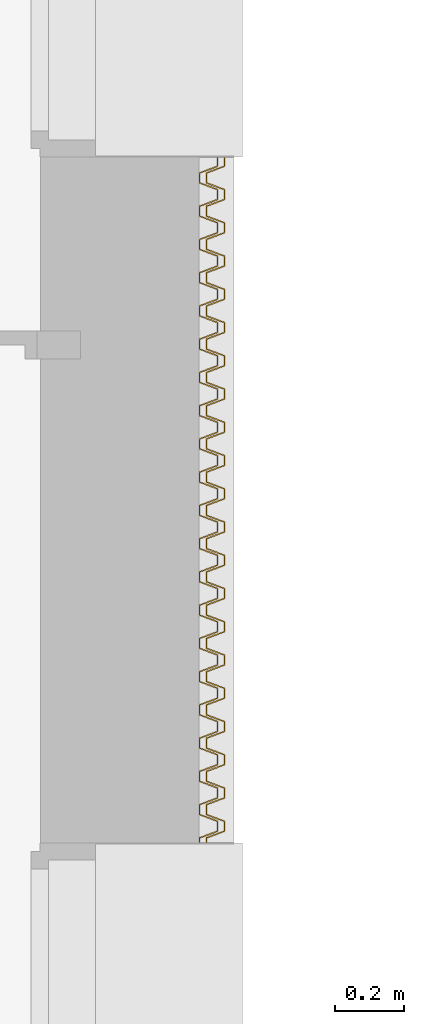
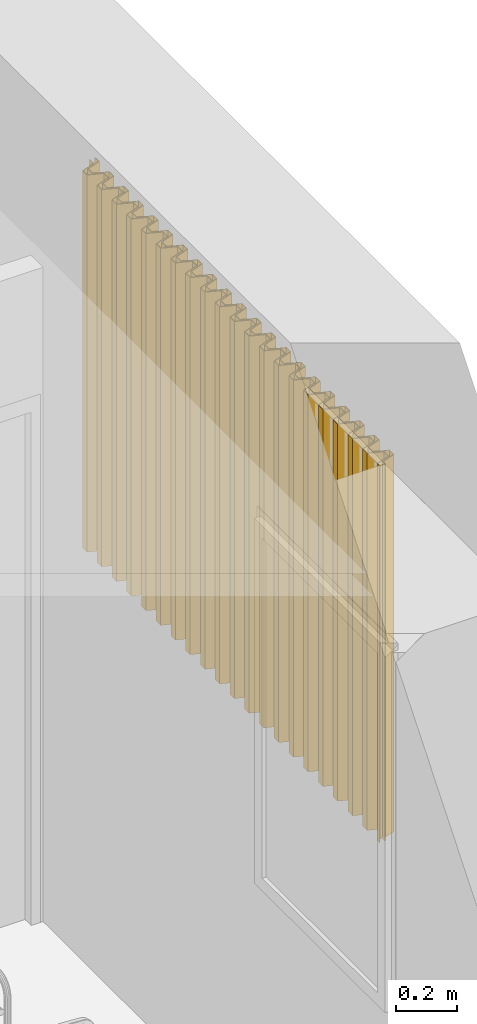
# One storey, part 83 of 91: 2 coverings.
"""IFC2X3 building model written with IfcOpenShell, lengths in metres."""

import ifcopenshell
import ifcopenshell.guid

model = None  # the IFC model being written
_history = None  # IfcOwnerHistory: only IFC2X3 demands one
_inside = {}  # id of a spatial element -> (the spatial element, [elements in it])
_under = {}  # id of a project, library or spatial element -> (it, [spatial elements below it])
_declared = {}  # id of a project -> (the project, [libraries it declares])
_typed = {}  # id of a type object -> (the type object, [elements of that type])
_made_of = {}  # id of a material, layer set ... -> (it, [elements and type objects made of it])


def new_model(schema):
    """Start an empty IFC model of exactly this schema.

    Asked for "IFC4X3", IfcOpenShell would pick the latest addendum, in which some entities
    have other attributes; the version numbers below select the first issue.
    IFC2X3 requires an IfcOwnerHistory on every rooted entity: one is made here for all.
    """
    global model, _history
    if schema == "IFC4X3":
        model = ifcopenshell.file(schema_version=(4, 3, 0, 0))
    else:
        model = ifcopenshell.file(schema=schema)
    _inside.clear()
    _under.clear()
    _declared.clear()
    _typed.clear()
    _made_of.clear()
    _history = None
    if model.schema == "IFC2X3":
        org = make("IfcOrganization", Name="unknown")
        user = make(
            "IfcPersonAndOrganization",
            ThePerson=make("IfcPerson", FamilyName="unknown"),
            TheOrganization=org,
        )
        app = make(
            "IfcApplication",
            ApplicationDeveloper=org,
            Version="unknown",
            ApplicationFullName="unknown",
            ApplicationIdentifier="unknown",
        )
        _history = make(
            "IfcOwnerHistory",
            OwningUser=user,
            OwningApplication=app,
            ChangeAction="ADDED",
            CreationDate=0,
        )
    return model


def make(cls, **values):
    """One entity of the class cls with the attributes given. An attribute that is None is left unset."""
    return model.create_entity(
        cls, **{name: value for name, value in values.items() if value is not None}
    )


def entity(cls, *values):
    """Any entity or typed value of the class cls, its attributes in the order of the schema. None: left unset."""
    e = model.create_entity(cls)
    for i, value in enumerate(values):
        if value is not None:
            e[i] = value
    return e


def rooted(cls, **values):
    """An entity with a GlobalId (a new one), such as an element, a storey or a relation."""
    return make(cls, GlobalId=ifcopenshell.guid.new(), OwnerHistory=_history, **values)


def si_unit(unit_type, name, prefix=None):
    """IfcSIUnit, for example si_unit("LENGTHUNIT", "METRE", prefix="MILLI")."""
    return make("IfcSIUnit", UnitType=unit_type, Prefix=prefix, Name=name)


def converted_unit(unit_type, name, factor, base, dimensions=None, offset=None):
    """IfcConversionBasedUnit, such as the inch: factor (a typed value) times the base unit."""
    return make(
        "IfcConversionBasedUnit"
        if offset is None
        else "IfcConversionBasedUnitWithOffset",
        ConversionOffset=offset,
        Dimensions=None
        if dimensions is None
        else entity("IfcDimensionalExponents", *dimensions),
        UnitType=unit_type,
        Name=name,
        ConversionFactor=make(
            "IfcMeasureWithUnit", ValueComponent=factor, UnitComponent=base
        ),
    )


def derived_unit(unit_type, elements):
    """IfcDerivedUnit: a product of units, each with its exponent."""
    return make(
        "IfcDerivedUnit",
        Elements=[
            make("IfcDerivedUnitElement", Unit=unit, Exponent=power)
            for unit, power in elements
        ],
        UnitType=unit_type,
    )


def money_unit(currency):
    """IfcMonetaryUnit."""
    return make("IfcMonetaryUnit", Currency=currency)


def assignment(units):
    """IfcUnitAssignment: the units of a project."""
    return None if units is None else make("IfcUnitAssignment", Units=units)


def point(xyz):
    """IfcCartesianPoint."""
    return None if xyz is None else make("IfcCartesianPoint", Coordinates=xyz)


def direction(xyz):
    """IfcDirection."""
    return None if xyz is None else make("IfcDirection", DirectionRatios=xyz)


def frame(location, z_axis=None, x_axis=None):
    """IfcAxis2Placement3D, a coordinate frame: its origin and axes. An axis left out is left unset."""
    return make(
        "IfcAxis2Placement3D",
        Location=point(location),
        Axis=direction(z_axis),
        RefDirection=direction(x_axis),
    )


def origin_with_axes():
    """The frame at (0, 0, 0) with the z axis (0, 0, 1) and the x axis (1, 0, 0) written out."""
    return frame((0.0, 0.0, 0.0), z_axis=(0.0, 0.0, 1.0), x_axis=(1.0, 0.0, 0.0))


def place(relative_to, where):
    """IfcLocalPlacement: puts the frame where relative to a parent placement (None: the world)."""
    return make(
        "IfcLocalPlacement", PlacementRelTo=relative_to, RelativePlacement=where
    )


def context(
    kind, dimensions, precision=None, world=None, true_north=None, identifier=None
):
    """IfcGeometricRepresentationContext, for example the 3D "Model" context."""
    return make(
        "IfcGeometricRepresentationContext",
        ContextIdentifier=identifier,
        ContextType=kind,
        CoordinateSpaceDimension=dimensions,
        Precision=precision,
        WorldCoordinateSystem=world,
        TrueNorth=true_north,
    )


def subcontext(parent, identifier, kind, view, scale=None):
    """IfcGeometricRepresentationSubContext, for example "Body" below "Model"."""
    return make(
        "IfcGeometricRepresentationSubContext",
        ContextIdentifier=identifier,
        ContextType=kind,
        ParentContext=parent,
        TargetScale=scale,
        TargetView=view,
    )


def project(units=None, contexts=None):
    """IfcProject with its units and contexts."""
    return rooted(
        "IfcProject",
        Name="project",
        RepresentationContexts=contexts,
        UnitsInContext=assignment(units),
    )


def spatial(cls, under=None, at=None, **own):
    """A site, building, storey or space (cls), placed at a placement, below another one or the project."""
    s = rooted(cls, ObjectPlacement=at, **own)
    if under is not None:
        _under.setdefault(under.id(), (under, []))[1].append(s)
    return s


def faces_of(points, faces, orient=None, outer=None):
    """IfcFace entities. A face is a list of loops; a loop is a list of indices into points, from 0.

    orient and outer hold one flag for each loop. By default every Orientation is true, the
    first loop of a face is its IfcFaceOuterBound and the others are IfcFaceBound.
    """
    made = []
    for i, loops in enumerate(faces):
        bounds = []
        for j, loop in enumerate(loops):
            is_outer = j == 0 if outer is None else outer[i][j]
            bounds.append(
                make(
                    "IfcFaceOuterBound" if is_outer else "IfcFaceBound",
                    Bound=make("IfcPolyLoop", Polygon=[points[k] for k in loop]),
                    Orientation=True if orient is None else orient[i][j],
                )
            )
        made.append(make("IfcFace", Bounds=bounds))
    return made


def faceted_brep(points, faces, orient=None, outer=None, voids=None):
    """IfcFacetedBrep: a solid bounded by flat faces; with voids (closed shells), ...WithVoids."""
    shared = [point(p) for p in points]
    hull = make("IfcClosedShell", CfsFaces=faces_of(shared, faces, orient, outer))
    if voids is None:
        return make("IfcFacetedBrep", Outer=hull)
    return make(
        "IfcFacetedBrepWithVoids",
        Outer=hull,
        Voids=[
            make(cls, CfsFaces=faces_of(shared, fs, o, b)) for cls, fs, o, b in voids
        ],
    )


def shape(context_of_items, identifier, shape_type, items):
    """IfcShapeRepresentation: the items that make up one representation, for example the "Body"."""
    return make(
        "IfcShapeRepresentation",
        ContextOfItems=context_of_items,
        RepresentationIdentifier=identifier,
        RepresentationType=shape_type,
        Items=items,
    )


def source(mapping_origin, context_of_items, identifier, shape_type, items):
    """IfcRepresentationMap: a shape defined once, which mapped items show again and again."""
    return make(
        "IfcRepresentationMap",
        MappingOrigin=mapping_origin,
        MappedRepresentation=shape(context_of_items, identifier, shape_type, items),
    )


def transform(
    local_origin,
    x_axis=None,
    y_axis=None,
    z_axis=None,
    scale=None,
    scale2=None,
    scale3=None,
    uniform=True,
):
    """IfcCartesianTransformationOperator3D, or its non-uniform kind. x_axis, y_axis, z_axis: its Axis1, 2, 3."""
    if uniform:
        return make(
            "IfcCartesianTransformationOperator3D",
            Axis1=direction(x_axis),
            Axis2=direction(y_axis),
            LocalOrigin=point(local_origin),
            Scale=scale,
            Axis3=direction(z_axis),
        )
    return make(
        "IfcCartesianTransformationOperator3DnonUniform",
        Axis1=direction(x_axis),
        Axis2=direction(y_axis),
        LocalOrigin=point(local_origin),
        Scale=scale,
        Axis3=direction(z_axis),
        Scale2=scale2,
        Scale3=scale3,
    )


def mapped(mapping_source, mapping_target):
    """IfcMappedItem: shows the shape of a source again, moved by a transform."""
    return make(
        "IfcMappedItem", MappingSource=mapping_source, MappingTarget=mapping_target
    )


def material(Name=None, Category=None):
    """IfcMaterial."""
    return make("IfcMaterial", Name=Name, Category=Category)


def made_of(thing, what):
    """Note that an element or type object is made of a material, layer set ...; save() writes the relation."""
    if what is not None:
        _made_of.setdefault(what.id(), (what, []))[1].append(thing)
    return thing


def type_object(cls, material=None, **own):
    """A type object (cls), such as IfcWallType, which elements share."""
    return made_of(rooted(cls, **own), material)


def element(
    cls,
    number,
    at=None,
    inside=None,
    cuts=None,
    type_object=None,
    material=None,
    context=None,
    identifier="Body",
    shape_type=None,
    held_by="IfcProductDefinitionShape",
    body=None,
    shapes=None,
    **own,
):
    """One element of the class cls, such as IfcWall. Its Tag is "e" and its number.

    at: its placement. inside: the storey or other place that contains it. cuts: it is an
    opening in that element (IfcRelVoidsElement). A single representation is given by context,
    identifier, shape_type and body (its items); several are given by shapes. held_by: the class
    of the entity that holds the representations. save() writes the other relations.
    """
    e = rooted(cls, Tag="e%d" % number, ObjectPlacement=at, **own)
    if body is not None:
        shapes = [shape(context, identifier, shape_type, body)]
    if shapes is not None:
        e.Representation = make(held_by, Representations=shapes)
    if inside is not None:
        _inside.setdefault(inside.id(), (inside, []))[1].append(e)
    if cuts is not None:
        rooted(
            "IfcRelVoidsElement", RelatingBuildingElement=cuts, RelatedOpeningElement=e
        )
    if type_object is not None:
        _typed.setdefault(type_object.id(), (type_object, []))[1].append(e)
    return made_of(e, material)


def aggregate(whole, parts):
    """IfcRelAggregates: a whole, such as a stair, and the parts it consists of."""
    return rooted("IfcRelAggregates", RelatingObject=whole, RelatedObjects=parts)


def save(model, path):
    """Write the relations noted so far, then the file.

    IfcRelAggregates (storeys below a building ...), IfcRelContainedInSpatialStructure (elements
    in a storey), IfcRelDefinesByType, IfcRelAssociatesMaterial and IfcRelDeclares: one each for
    every whole, place, type object, material and project.
    """
    for whole, parts in _under.values():
        aggregate(whole, parts)
    for where, things in _inside.values():
        rooted(
            "IfcRelContainedInSpatialStructure",
            RelatedElements=things,
            RelatingStructure=where,
        )
    for kind, things in _typed.values():
        rooted("IfcRelDefinesByType", RelatedObjects=things, RelatingType=kind)
    for what, things in _made_of.values():
        rooted("IfcRelAssociatesMaterial", RelatedObjects=things, RelatingMaterial=what)
    for by, libraries in _declared.values():
        rooted("IfcRelDeclares", RelatingContext=by, RelatedDefinitions=libraries)
    model.write(path)


model = new_model("IFC2X3")

# Units and contexts
model_context = context("Model", 3, precision=1e-05, world=origin_with_axes(), true_north=direction((0.0, 1.0)))
body_context = subcontext(model_context, "Body", "Model", "MODEL_VIEW")
ifc_project = project(units=[si_unit("LENGTHUNIT", "METRE"), si_unit("AREAUNIT", "SQUARE_METRE"), si_unit("VOLUMEUNIT", "CUBIC_METRE"), converted_unit("PLANEANGLEUNIT", "DEGREE", entity("IfcPlaneAngleMeasure", 0.0174532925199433), si_unit("PLANEANGLEUNIT", "RADIAN"), dimensions=[0, 0, 0, 0, 0, 0, 0]), money_unit("EUR"), converted_unit("TIMEUNIT", "Year", entity("IfcTimeMeasure", 31557600.0), si_unit("TIMEUNIT", "SECOND"), dimensions=[0, 0, 1, 0, 0, 0, 0]), si_unit("MASSUNIT", "GRAM", prefix="KILO"), si_unit("THERMODYNAMICTEMPERATUREUNIT", "DEGREE_CELSIUS"), si_unit("LUMINOUSINTENSITYUNIT", "LUMEN"), si_unit("ENERGYUNIT", "JOULE", prefix="MEGA"), derived_unit("THERMALCONDUCTANCEUNIT", [(si_unit("POWERUNIT", "WATT"), 1), (si_unit("LENGTHUNIT", "METRE"), -1), (si_unit("THERMODYNAMICTEMPERATUREUNIT", "KELVIN"), -1)]), derived_unit("SPECIFICHEATCAPACITYUNIT", [(si_unit("ENERGYUNIT", "JOULE"), 1), (si_unit("MASSUNIT", "GRAM", prefix="KILO"), -1), (si_unit("THERMODYNAMICTEMPERATUREUNIT", "KELVIN"), -1)]), derived_unit("MASSDENSITYUNIT", [(si_unit("MASSUNIT", "GRAM", prefix="KILO"), 1), (si_unit("VOLUMEUNIT", "CUBIC_METRE"), -1)])], contexts=[model_context])

# Site, building, storey
site_placement = place(None, origin_with_axes())
site = spatial("IfcSite", under=ifc_project, at=site_placement, Name="Site", CompositionType="ELEMENT")
building_placement = place(site_placement, origin_with_axes())
building = spatial("IfcBuilding", under=site, at=building_placement, Name="Bâtiment", CompositionType="ELEMENT")
storey_placement = place(building_placement, origin_with_axes())
storey = spatial("IfcBuildingStorey", under=building, at=storey_placement, Name="RDC", CompositionType="ELEMENT", Elevation=0.0)

# Coverings
ifc_material = material(Name="Métal - Acier")
covering_type = type_object("IfcCoveringType", Name="Tôle profilée 27", PredefinedType="NOTDEFINED")
shared_shape = source(origin_with_axes(), body_context, "Body", "Brep", [
    faceted_brep([(0.0, 0.0, 0.0), (0.0, 0.0, 1.4985), (0.0, 0.01500000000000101, 1.4985), (0.0, 0.01500000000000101, 0.0), (0.002, 0.0, 0.0), (0.002, 0.0, 1.4985), (0.001999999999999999, 0.0136112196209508, 1.4985), (0.05399999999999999, 0.0329999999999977, 1.4985), (0.05399999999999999, 0.06299999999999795, 1.4985), (0.001999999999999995, 0.0823887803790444, 1.4985), (0.001999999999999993, 0.1096112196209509, 1.4985), (0.05399999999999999, 0.1289999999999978, 1.4985), (0.05399999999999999, 0.158999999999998, 1.4985), (0.001999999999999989, 0.1783887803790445, 1.4985), (0.001999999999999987, 0.205611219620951, 1.4985), (0.05399999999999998, 0.2249999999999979, 1.4985), (0.05399999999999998, 0.2549999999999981, 1.4985), (0.001999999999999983, 0.2743887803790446, 1.4985), (0.001999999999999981, 0.3016112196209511, 1.4985), (0.05399999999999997, 0.320999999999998, 1.4985), (0.05399999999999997, 0.3509999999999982, 1.4985), (0.001999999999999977, 0.3703887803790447, 1.4985), (0.001999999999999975, 0.3976112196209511, 1.4985), (0.05399999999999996, 0.416999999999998, 1.4985), (0.05399999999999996, 0.4469999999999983, 1.4985), (0.001999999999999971, 0.4663887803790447, 1.4985), (0.00199999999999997, 0.4936112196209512, 1.4985), (0.05399999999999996, 0.5129999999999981, 1.4985), (0.05399999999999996, 0.5429999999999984, 1.4985), (0.001999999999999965, 0.5623887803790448, 1.4985), (0.001999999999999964, 0.5896112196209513, 1.4985), (0.05399999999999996, 0.6089999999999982, 1.4985), (0.05399999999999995, 0.6389999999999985, 1.4985), (0.00199999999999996, 0.6583887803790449, 1.4985), (0.001999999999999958, 0.6856112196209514, 1.4985), (0.05399999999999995, 0.7049999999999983, 1.4985), (0.05399999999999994, 0.7349999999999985, 1.4985), (0.001999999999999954, 0.754388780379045, 1.4985), (0.001999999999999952, 0.7816112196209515, 1.4985), (0.05399999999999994, 0.8009999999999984, 1.4985), (0.05399999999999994, 0.8309999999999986, 1.4985), (0.001999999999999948, 0.8503887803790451, 1.4985), (0.001999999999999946, 0.8776112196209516, 1.4985), (0.05399999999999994, 0.8969999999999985, 1.4985), (0.05399999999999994, 0.9269999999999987, 1.4985), (0.001999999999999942, 0.9463887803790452, 1.4985), (0.00199999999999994, 0.9736112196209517, 1.4985), (0.05399999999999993, 0.9929999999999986, 1.4985), (0.05399999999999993, 1.022999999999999, 1.4985), (0.001999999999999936, 1.042388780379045, 1.4985), (0.001999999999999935, 1.069611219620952, 1.4985), (0.05399999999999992, 1.088999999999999, 1.4985), (0.05399999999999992, 1.118999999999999, 1.4985), (0.00199999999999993, 1.138388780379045, 1.4985), (0.001999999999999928, 1.165611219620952, 1.4985), (0.05399999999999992, 1.184999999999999, 1.4985), (0.05399999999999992, 1.214999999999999, 1.4985), (0.001999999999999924, 1.234388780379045, 1.4985), (0.001999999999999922, 1.261611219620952, 1.4985), (0.05399999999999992, 1.280999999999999, 1.4985), (0.05399999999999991, 1.310999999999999, 1.4985), (0.001999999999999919, 1.330388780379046, 1.4985), (0.001999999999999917, 1.357611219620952, 1.4985), (0.05399999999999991, 1.376999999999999, 1.4985), (0.05399999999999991, 1.406999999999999, 1.4985), (0.001999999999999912, 1.426388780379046, 1.4985), (0.001999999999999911, 1.453611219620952, 1.4985), (0.0539999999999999, 1.472999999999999, 1.4985), (0.0539999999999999, 1.502999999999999, 1.4985), (0.001999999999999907, 1.522388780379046, 1.4985), (0.001999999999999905, 1.549611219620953, 1.4985), (0.0539999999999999, 1.569, 1.4985), (0.0539999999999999, 1.598999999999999, 1.4985), (0.001999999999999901, 1.618388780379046, 1.4985), (0.001999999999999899, 1.645611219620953, 1.4985), (0.05399999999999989, 1.665, 1.4985), (0.05399999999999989, 1.694999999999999, 1.4985), (0.001999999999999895, 1.714388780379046, 1.4985), (0.001999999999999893, 1.741611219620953, 1.4985), (0.05399999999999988, 1.761, 1.4985), (0.05399999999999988, 1.790999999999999, 1.4985), (0.001999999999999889, 1.810388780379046, 1.4985), (0.001999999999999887, 1.837611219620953, 1.4985), (0.05399999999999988, 1.857, 1.4985), (0.05399999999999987, 1.886999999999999, 1.4985), (0.001999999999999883, 1.906388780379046, 1.4985), (0.001999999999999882, 1.933611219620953, 1.4985), (0.05399999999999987, 1.953, 1.4985), (0.05399999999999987, 1.979999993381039, 1.4985), (0.05199999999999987, 1.979999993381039, 1.4985), (0.05199999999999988, 1.954388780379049, 1.4985), (0.0, 1.935000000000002, 1.4985), (0.0, 1.905000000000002, 1.4985), (0.05199999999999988, 1.885611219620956, 1.4985), (0.05199999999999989, 1.858388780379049, 1.4985), (0.0, 1.839000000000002, 1.4985), (0.0, 1.809000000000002, 1.4985), (0.05199999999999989, 1.789611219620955, 1.4985), (0.05199999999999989, 1.762388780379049, 1.4985), (0.0, 1.743000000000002, 1.4985), (0.0, 1.713000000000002, 1.4985), (0.05199999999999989, 1.693611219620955, 1.4985), (0.05199999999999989, 1.666388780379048, 1.4985), (0.0, 1.647000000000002, 1.4985), (0.0, 1.617000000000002, 1.4985), (0.0519999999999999, 1.597611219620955, 1.4985), (0.0519999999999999, 1.570388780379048, 1.4985), (0.0, 1.551000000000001, 1.4985), (0.0, 1.521000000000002, 1.4985), (0.05199999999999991, 1.501611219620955, 1.4985), (0.05199999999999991, 1.474388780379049, 1.4985), (0.0, 1.455000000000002, 1.4985), (0.0, 1.425000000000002, 1.4985), (0.05199999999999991, 1.405611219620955, 1.4985), (0.05199999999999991, 1.378388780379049, 1.4985), (0.0, 1.359000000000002, 1.4985), (0.0, 1.329000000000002, 1.4985), (0.05199999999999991, 1.309611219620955, 1.4985), (0.05199999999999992, 1.282388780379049, 1.4985), (0.0, 1.263000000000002, 1.4985), (0.0, 1.233000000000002, 1.4985), (0.05199999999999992, 1.213611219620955, 1.4985), (0.05199999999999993, 1.186388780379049, 1.4985), (0.0, 1.167000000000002, 1.4985), (0.0, 1.137000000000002, 1.4985), (0.05199999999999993, 1.117611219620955, 1.4985), (0.05199999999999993, 1.090388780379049, 1.4985), (0.0, 1.071000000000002, 1.4985), (0.0, 1.041000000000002, 1.4985), (0.05199999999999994, 1.021611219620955, 1.4985), (0.05199999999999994, 0.9943887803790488, 1.4985), (0.0, 0.9750000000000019, 1.4985), (0.0, 0.9450000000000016, 1.4985), (0.05199999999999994, 0.9256112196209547, 1.4985), (0.05199999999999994, 0.8983887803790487, 1.4985), (0.0, 0.8790000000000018, 1.4985), (0.0, 0.8490000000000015, 1.4985), (0.05199999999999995, 0.8296112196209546, 1.4985), (0.05199999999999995, 0.8023887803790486, 1.4985), (0.0, 0.7830000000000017, 1.4985), (0.0, 0.7530000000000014, 1.4985), (0.05199999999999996, 0.7336112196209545, 1.4985), (0.05199999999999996, 0.7063887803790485, 1.4985), (0.0, 0.6870000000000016, 1.4985), (0.0, 0.6570000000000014, 1.4985), (0.05199999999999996, 0.6376112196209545, 1.4985), (0.05199999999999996, 0.6103887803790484, 1.4985), (0.0, 0.5910000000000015, 1.4985), (0.0, 0.5610000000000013, 1.4985), (0.05199999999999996, 0.5416112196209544, 1.4985), (0.05199999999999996, 0.5143887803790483, 1.4985), (0.0, 0.4950000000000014, 1.4985), (0.0, 0.4650000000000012, 1.4985), (0.05199999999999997, 0.4456112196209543, 1.4985), (0.05199999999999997, 0.4183887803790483, 1.4985), (0.0, 0.3990000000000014, 1.4985), (0.0, 0.3690000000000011, 1.4985), (0.05199999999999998, 0.3496112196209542, 1.4985), (0.05199999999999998, 0.3223887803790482, 1.4985), (0.0, 0.3030000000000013, 1.4985), (0.0, 0.273000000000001, 1.4985), (0.05199999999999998, 0.2536112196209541, 1.4985), (0.05199999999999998, 0.2263887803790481, 1.4985), (0.0, 0.2070000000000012, 1.4985), (0.0, 0.1770000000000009, 1.4985), (0.05199999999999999, 0.157611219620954, 1.4985), (0.05199999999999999, 0.130388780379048, 1.4985), (0.0, 0.1110000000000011, 1.4985), (0.0, 0.08100000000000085, 1.4985), (0.05199999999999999, 0.06161121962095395, 1.4985), (0.052, 0.03438878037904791, 1.4985), (0.052, 0.03438878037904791, 0.0), (0.05199999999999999, 0.06161121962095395, 0.0), (0.0, 0.08100000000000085, 0.0), (0.0, 0.1110000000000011, 0.0), (0.05199999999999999, 0.130388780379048, 0.0), (0.05199999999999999, 0.157611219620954, 0.0), (0.0, 0.1770000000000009, 0.0), (0.0, 0.2070000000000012, 0.0), (0.05199999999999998, 0.2263887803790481, 0.0), (0.05199999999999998, 0.2536112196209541, 0.0), (0.0, 0.273000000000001, 0.0), (0.0, 0.3030000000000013, 0.0), (0.05199999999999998, 0.3223887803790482, 0.0), (0.05199999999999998, 0.3496112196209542, 0.0), (0.0, 0.3690000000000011, 0.0), (0.0, 0.3990000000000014, 0.0), (0.05199999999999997, 0.4183887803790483, 0.0), (0.05199999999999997, 0.4456112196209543, 0.0), (0.0, 0.4650000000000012, 0.0), (0.0, 0.4950000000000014, 0.0), (0.05199999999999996, 0.5143887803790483, 0.0), (0.05199999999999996, 0.5416112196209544, 0.0), (0.0, 0.5610000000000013, 0.0), (0.0, 0.5910000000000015, 0.0), (0.05199999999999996, 0.6103887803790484, 0.0), (0.05199999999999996, 0.6376112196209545, 0.0), (0.0, 0.6570000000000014, 0.0), (0.0, 0.6870000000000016, 0.0), (0.05199999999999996, 0.7063887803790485, 0.0), (0.05199999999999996, 0.7336112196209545, 0.0), (0.0, 0.7530000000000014, 0.0), (0.0, 0.7830000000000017, 0.0), (0.05199999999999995, 0.8023887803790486, 0.0), (0.05199999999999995, 0.8296112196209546, 0.0), (0.0, 0.8490000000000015, 0.0), (0.0, 0.8790000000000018, 0.0), (0.05199999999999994, 0.8983887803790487, 0.0), (0.05199999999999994, 0.9256112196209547, 0.0), (0.0, 0.9450000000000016, 0.0), (0.0, 0.9750000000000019, 0.0), (0.05199999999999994, 0.9943887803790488, 0.0), (0.05199999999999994, 1.021611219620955, 0.0), (0.0, 1.041000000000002, 0.0), (0.0, 1.071000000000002, 0.0), (0.05199999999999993, 1.090388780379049, 0.0), (0.05199999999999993, 1.117611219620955, 0.0), (0.0, 1.137000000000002, 0.0), (0.0, 1.167000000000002, 0.0), (0.05199999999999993, 1.186388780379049, 0.0), (0.05199999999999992, 1.213611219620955, 0.0), (0.0, 1.233000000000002, 0.0), (0.0, 1.263000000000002, 0.0), (0.05199999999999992, 1.282388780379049, 0.0), (0.05199999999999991, 1.309611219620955, 0.0), (0.0, 1.329000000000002, 0.0), (0.0, 1.359000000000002, 0.0), (0.05199999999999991, 1.378388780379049, 0.0), (0.05199999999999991, 1.405611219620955, 0.0), (0.0, 1.425000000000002, 0.0), (0.0, 1.455000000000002, 0.0), (0.05199999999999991, 1.474388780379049, 0.0), (0.05199999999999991, 1.501611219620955, 0.0), (0.0, 1.521000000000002, 0.0), (0.0, 1.551000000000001, 0.0), (0.0519999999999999, 1.570388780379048, 0.0), (0.0519999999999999, 1.597611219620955, 0.0), (0.0, 1.617000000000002, 0.0), (0.0, 1.647000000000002, 0.0), (0.05199999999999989, 1.666388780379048, 0.0), (0.05199999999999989, 1.693611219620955, 0.0), (0.0, 1.713000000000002, 0.0), (0.0, 1.743000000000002, 0.0), (0.05199999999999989, 1.762388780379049, 0.0), (0.05199999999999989, 1.789611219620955, 0.0), (0.0, 1.809000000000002, 0.0), (0.0, 1.839000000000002, 0.0), (0.05199999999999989, 1.858388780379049, 0.0), (0.05199999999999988, 1.885611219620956, 0.0), (0.0, 1.905000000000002, 0.0), (0.0, 1.935000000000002, 0.0), (0.05199999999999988, 1.954388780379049, 0.0), (0.05199999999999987, 1.979999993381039, 0.0), (0.05399999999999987, 1.979999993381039, 0.0), (0.05399999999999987, 1.953, 0.0), (0.001999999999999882, 1.933611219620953, 0.0), (0.001999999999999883, 1.906388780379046, 0.0), (0.05399999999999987, 1.886999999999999, 0.0), (0.05399999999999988, 1.857, 0.0), (0.001999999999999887, 1.837611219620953, 0.0), (0.001999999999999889, 1.810388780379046, 0.0), (0.05399999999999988, 1.790999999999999, 0.0), (0.05399999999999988, 1.761, 0.0), (0.001999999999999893, 1.741611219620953, 0.0), (0.001999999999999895, 1.714388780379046, 0.0), (0.05399999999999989, 1.694999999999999, 0.0), (0.05399999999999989, 1.665, 0.0), (0.001999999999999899, 1.645611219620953, 0.0), (0.001999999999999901, 1.618388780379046, 0.0), (0.0539999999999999, 1.598999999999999, 0.0), (0.0539999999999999, 1.569, 0.0), (0.001999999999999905, 1.549611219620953, 0.0), (0.001999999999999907, 1.522388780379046, 0.0), (0.0539999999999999, 1.502999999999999, 0.0), (0.0539999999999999, 1.472999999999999, 0.0), (0.001999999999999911, 1.453611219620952, 0.0), (0.001999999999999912, 1.426388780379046, 0.0), (0.05399999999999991, 1.406999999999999, 0.0), (0.05399999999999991, 1.376999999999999, 0.0), (0.001999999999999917, 1.357611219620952, 0.0), (0.001999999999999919, 1.330388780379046, 0.0), (0.05399999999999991, 1.310999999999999, 0.0), (0.05399999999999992, 1.280999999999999, 0.0), (0.001999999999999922, 1.261611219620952, 0.0), (0.001999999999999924, 1.234388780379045, 0.0), (0.05399999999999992, 1.214999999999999, 0.0), (0.05399999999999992, 1.184999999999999, 0.0), (0.001999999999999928, 1.165611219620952, 0.0), (0.00199999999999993, 1.138388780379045, 0.0), (0.05399999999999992, 1.118999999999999, 0.0), (0.05399999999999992, 1.088999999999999, 0.0), (0.001999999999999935, 1.069611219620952, 0.0), (0.001999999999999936, 1.042388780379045, 0.0), (0.05399999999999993, 1.022999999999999, 0.0), (0.05399999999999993, 0.9929999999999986, 0.0), (0.00199999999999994, 0.9736112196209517, 0.0), (0.001999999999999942, 0.9463887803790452, 0.0), (0.05399999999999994, 0.9269999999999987, 0.0), (0.05399999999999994, 0.8969999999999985, 0.0), (0.001999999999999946, 0.8776112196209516, 0.0), (0.001999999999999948, 0.8503887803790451, 0.0), (0.05399999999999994, 0.8309999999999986, 0.0), (0.05399999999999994, 0.8009999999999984, 0.0), (0.001999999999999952, 0.7816112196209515, 0.0), (0.001999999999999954, 0.754388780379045, 0.0), (0.05399999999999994, 0.7349999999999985, 0.0), (0.05399999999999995, 0.7049999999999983, 0.0), (0.001999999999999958, 0.6856112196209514, 0.0), (0.00199999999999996, 0.6583887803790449, 0.0), (0.05399999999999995, 0.6389999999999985, 0.0), (0.05399999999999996, 0.6089999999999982, 0.0), (0.001999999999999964, 0.5896112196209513, 0.0), (0.001999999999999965, 0.5623887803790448, 0.0), (0.05399999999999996, 0.5429999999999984, 0.0), (0.05399999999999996, 0.5129999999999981, 0.0), (0.00199999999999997, 0.4936112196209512, 0.0), (0.001999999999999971, 0.4663887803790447, 0.0), (0.05399999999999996, 0.4469999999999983, 0.0), (0.05399999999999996, 0.416999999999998, 0.0), (0.001999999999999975, 0.3976112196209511, 0.0), (0.001999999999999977, 0.3703887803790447, 0.0), (0.05399999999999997, 0.3509999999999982, 0.0), (0.05399999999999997, 0.320999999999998, 0.0), (0.001999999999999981, 0.3016112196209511, 0.0), (0.001999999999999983, 0.2743887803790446, 0.0), (0.05399999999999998, 0.2549999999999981, 0.0), (0.05399999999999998, 0.2249999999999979, 0.0), (0.001999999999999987, 0.205611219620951, 0.0), (0.001999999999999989, 0.1783887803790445, 0.0), (0.05399999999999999, 0.158999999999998, 0.0), (0.05399999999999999, 0.1289999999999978, 0.0), (0.001999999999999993, 0.1096112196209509, 0.0), (0.001999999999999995, 0.0823887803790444, 0.0), (0.05399999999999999, 0.06299999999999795, 0.0), (0.05399999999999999, 0.0329999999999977, 0.0), (0.001999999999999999, 0.0136112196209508, 0.0)], [[[0, 1, 2, 3]], [[0, 4, 5, 1]], [[2, 1, 5, 6, 7, 8, 9, 10, 11, 12, 13, 14, 15, 16, 17, 18, 19, 20, 21, 22, 23, 24, 25, 26, 27, 28, 29, 30, 31, 32, 33, 34, 35, 36, 37, 38, 39, 40, 41, 42, 43, 44, 45, 46, 47, 48, 49, 50, 51, 52, 53, 54, 55, 56, 57, 58, 59, 60, 61, 62, 63, 64, 65, 66, 67, 68, 69, 70, 71, 72, 73, 74, 75, 76, 77, 78, 79, 80, 81, 82, 83, 84, 85, 86, 87, 88, 89, 90, 91, 92, 93, 94, 95, 96, 97, 98, 99, 100, 101, 102, 103, 104, 105, 106, 107, 108, 109, 110, 111, 112, 113, 114, 115, 116, 117, 118, 119, 120, 121, 122, 123, 124, 125, 126, 127, 128, 129, 130, 131, 132, 133, 134, 135, 136, 137, 138, 139, 140, 141, 142, 143, 144, 145, 146, 147, 148, 149, 150, 151, 152, 153, 154, 155, 156, 157, 158, 159, 160, 161, 162, 163, 164, 165, 166, 167, 168, 169, 170]], [[3, 2, 170, 171]], [[4, 0, 3, 171, 172, 173, 174, 175, 176, 177, 178, 179, 180, 181, 182, 183, 184, 185, 186, 187, 188, 189, 190, 191, 192, 193, 194, 195, 196, 197, 198, 199, 200, 201, 202, 203, 204, 205, 206, 207, 208, 209, 210, 211, 212, 213, 214, 215, 216, 217, 218, 219, 220, 221, 222, 223, 224, 225, 226, 227, 228, 229, 230, 231, 232, 233, 234, 235, 236, 237, 238, 239, 240, 241, 242, 243, 244, 245, 246, 247, 248, 249, 250, 251, 252, 253, 254, 255, 256, 257, 258, 259, 260, 261, 262, 263, 264, 265, 266, 267, 268, 269, 270, 271, 272, 273, 274, 275, 276, 277, 278, 279, 280, 281, 282, 283, 284, 285, 286, 287, 288, 289, 290, 291, 292, 293, 294, 295, 296, 297, 298, 299, 300, 301, 302, 303, 304, 305, 306, 307, 308, 309, 310, 311, 312, 313, 314, 315, 316, 317, 318, 319, 320, 321, 322, 323, 324, 325, 326, 327, 328, 329, 330, 331, 332, 333, 334, 335]], [[335, 6, 5, 4]], [[334, 7, 6, 335]], [[333, 8, 7, 334]], [[332, 9, 8, 333]], [[331, 10, 9, 332]], [[330, 11, 10, 331]], [[329, 12, 11, 330]], [[328, 13, 12, 329]], [[327, 14, 13, 328]], [[326, 15, 14, 327]], [[325, 16, 15, 326]], [[324, 17, 16, 325]], [[323, 18, 17, 324]], [[322, 19, 18, 323]], [[321, 20, 19, 322]], [[320, 21, 20, 321]], [[319, 22, 21, 320]], [[318, 23, 22, 319]], [[317, 24, 23, 318]], [[316, 25, 24, 317]], [[315, 26, 25, 316]], [[314, 27, 26, 315]], [[313, 28, 27, 314]], [[312, 29, 28, 313]], [[311, 30, 29, 312]], [[310, 31, 30, 311]], [[309, 32, 31, 310]], [[308, 33, 32, 309]], [[307, 34, 33, 308]], [[306, 35, 34, 307]], [[305, 36, 35, 306]], [[304, 37, 36, 305]], [[303, 38, 37, 304]], [[302, 39, 38, 303]], [[301, 40, 39, 302]], [[300, 41, 40, 301]], [[299, 42, 41, 300]], [[298, 43, 42, 299]], [[297, 44, 43, 298]], [[296, 45, 44, 297]], [[295, 46, 45, 296]], [[294, 47, 46, 295]], [[293, 48, 47, 294]], [[292, 49, 48, 293]], [[291, 50, 49, 292]], [[290, 51, 50, 291]], [[289, 52, 51, 290]], [[288, 53, 52, 289]], [[287, 54, 53, 288]], [[286, 55, 54, 287]], [[285, 56, 55, 286]], [[284, 57, 56, 285]], [[283, 58, 57, 284]], [[282, 59, 58, 283]], [[281, 60, 59, 282]], [[280, 61, 60, 281]], [[279, 62, 61, 280]], [[278, 63, 62, 279]], [[277, 64, 63, 278]], [[276, 65, 64, 277]], [[275, 66, 65, 276]], [[274, 67, 66, 275]], [[273, 68, 67, 274]], [[272, 69, 68, 273]], [[271, 70, 69, 272]], [[270, 71, 70, 271]], [[269, 72, 71, 270]], [[268, 73, 72, 269]], [[267, 74, 73, 268]], [[266, 75, 74, 267]], [[265, 76, 75, 266]], [[264, 77, 76, 265]], [[263, 78, 77, 264]], [[262, 79, 78, 263]], [[261, 80, 79, 262]], [[260, 81, 80, 261]], [[259, 82, 81, 260]], [[258, 83, 82, 259]], [[257, 84, 83, 258]], [[256, 85, 84, 257]], [[255, 86, 85, 256]], [[254, 87, 86, 255]], [[253, 88, 87, 254]], [[252, 89, 88, 253]], [[251, 90, 89, 252]], [[250, 91, 90, 251]], [[249, 92, 91, 250]], [[248, 93, 92, 249]], [[247, 94, 93, 248]], [[246, 95, 94, 247]], [[245, 96, 95, 246]], [[244, 97, 96, 245]], [[243, 98, 97, 244]], [[242, 99, 98, 243]], [[241, 100, 99, 242]], [[240, 101, 100, 241]], [[239, 102, 101, 240]], [[238, 103, 102, 239]], [[237, 104, 103, 238]], [[236, 105, 104, 237]], [[235, 106, 105, 236]], [[234, 107, 106, 235]], [[233, 108, 107, 234]], [[232, 109, 108, 233]], [[231, 110, 109, 232]], [[230, 111, 110, 231]], [[229, 112, 111, 230]], [[228, 113, 112, 229]], [[227, 114, 113, 228]], [[226, 115, 114, 227]], [[225, 116, 115, 226]], [[224, 117, 116, 225]], [[223, 118, 117, 224]], [[222, 119, 118, 223]], [[221, 120, 119, 222]], [[220, 121, 120, 221]], [[219, 122, 121, 220]], [[218, 123, 122, 219]], [[217, 124, 123, 218]], [[216, 125, 124, 217]], [[215, 126, 125, 216]], [[214, 127, 126, 215]], [[213, 128, 127, 214]], [[212, 129, 128, 213]], [[211, 130, 129, 212]], [[210, 131, 130, 211]], [[209, 132, 131, 210]], [[208, 133, 132, 209]], [[207, 134, 133, 208]], [[206, 135, 134, 207]], [[205, 136, 135, 206]], [[204, 137, 136, 205]], [[203, 138, 137, 204]], [[202, 139, 138, 203]], [[201, 140, 139, 202]], [[200, 141, 140, 201]], [[199, 142, 141, 200]], [[198, 143, 142, 199]], [[197, 144, 143, 198]], [[196, 145, 144, 197]], [[195, 146, 145, 196]], [[194, 147, 146, 195]], [[193, 148, 147, 194]], [[192, 149, 148, 193]], [[191, 150, 149, 192]], [[190, 151, 150, 191]], [[189, 152, 151, 190]], [[188, 153, 152, 189]], [[187, 154, 153, 188]], [[186, 155, 154, 187]], [[185, 156, 155, 186]], [[184, 157, 156, 185]], [[183, 158, 157, 184]], [[182, 159, 158, 183]], [[181, 160, 159, 182]], [[180, 161, 160, 181]], [[179, 162, 161, 180]], [[178, 163, 162, 179]], [[177, 164, 163, 178]], [[176, 165, 164, 177]], [[175, 166, 165, 176]], [[174, 167, 166, 175]], [[173, 168, 167, 174]], [[172, 169, 168, 173]], [[171, 170, 169, 172]]]),
])
for number, where, z_axis, x_axis, name in (
    (1, (60.258, -19.79222254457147, 1.0), (0.0, 0.0, 1.0), (0.9999999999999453, 3.309421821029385e-07, 0.0), "PLACE STATIONNEMENT PMR"),
    (2, (60.27800000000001, -19.79222254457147, 1.000000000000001), (0.0, 0.0, 1.0), (0.9999999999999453, 3.309421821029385e-07, 0.0), "PLACE STATIONNEMENT PMR"),
):
    element("IfcCovering", number, at=place(storey_placement, frame(where, z_axis=z_axis, x_axis=x_axis)), inside=storey, type_object=covering_type, material=ifc_material, Name=name, PredefinedType="NOTDEFINED", context=body_context, shape_type="MappedRepresentation", body=[
        mapped(shared_shape, transform((0.0, 0.0, 0.0))),
    ])

save(model, "model.ifc")
